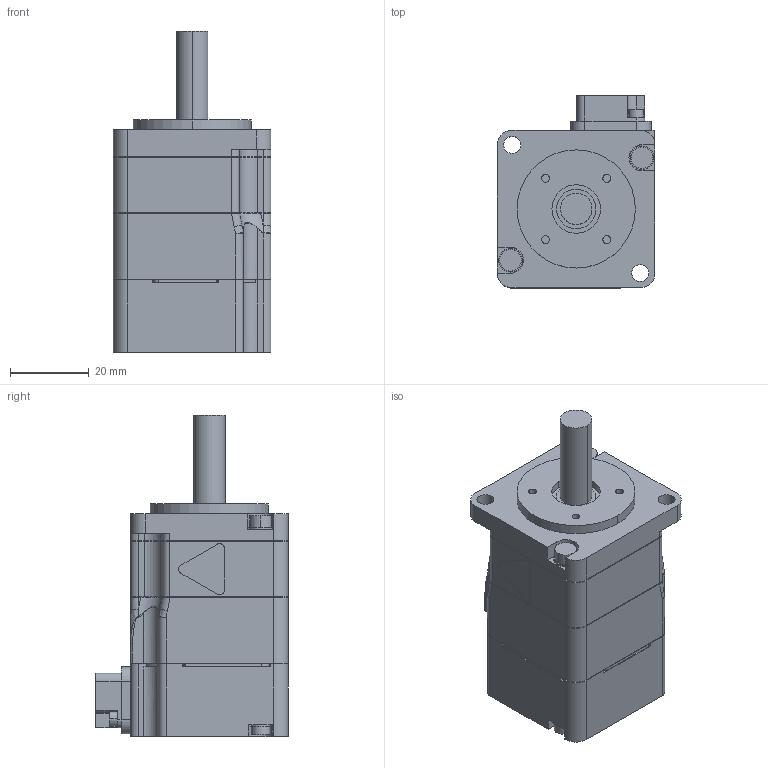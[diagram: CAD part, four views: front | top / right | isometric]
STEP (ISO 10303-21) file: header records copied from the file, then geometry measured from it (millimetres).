
FILE_DESCRIPTION((''),'2;1');
FILE_NAME('SGM7A-A5A','2013-11-20T',('shibuya'),('YASKAWA ELECTRIC CORCORATION'),'PRO/ENGINEER BY PARAMETRIC TECHNOLOGY CORPORATION, 2011490','PRO/ENGINEER BY PARAMETRIC TECHNOLOGY CORPORATION, 2011490','');
FILE_SCHEMA(('AUTOMOTIVE_DESIGN { 1 0 10303 214 1 1 1 1 }'));
Length unit declared in the file: millimetre
Products named in the file (1): SGM7A-A5A
Bounding box: 40.1 x 48.8 x 81.6 mm (x, y, z)
Volume: 87854.2 mm3; surface area: 14740.5 mm2
Topology: 1 solids, 1 shells, 372 faces, 975 edges, 639 vertices
Faces by surface type: plane 198, cylinder 157, bspline 17
Entity records: 16788 total; most frequent: CARTESIAN_POINT 2826, DIRECTION 1951, ORIENTED_EDGE 1950, EDGE_CURVE 975, FILL_AREA_STYLE_COLOUR 738, FILL_AREA_STYLE 738, SURFACE_STYLE_FILL_AREA 738, SURFACE_SIDE_STYLE 738
